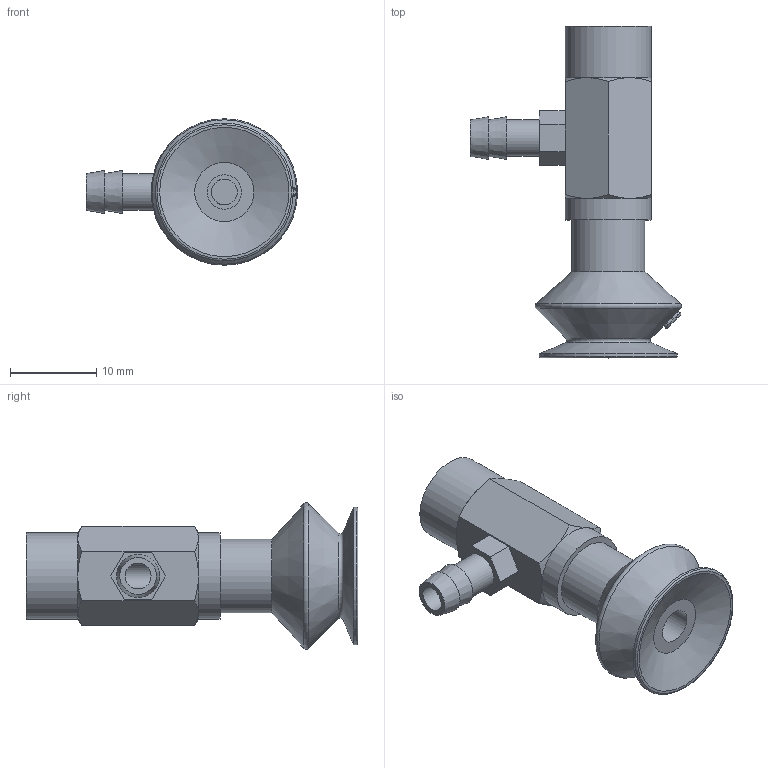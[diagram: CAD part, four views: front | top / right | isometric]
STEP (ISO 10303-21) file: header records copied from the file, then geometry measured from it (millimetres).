
FILE_DESCRIPTION(('STEP AP203'),'1');
FILE_NAME('.stp','2025-04-01T05:50:28',(' '),(' '),'Spatial InterOp 3D',' ',' ');
FILE_SCHEMA(('CONFIG_CONTROL_DESIGN'));
Length unit declared in the file: millimetre
Products named in the file (5): BBPBYK-15A-※; BPBYK-15A; BPBG-15A-※; __27; BPBG-15A
Assembly tree (4 placements, depth 3):
  BBPBYK-15A-※
    BPBYK-15A
    BPBG-15A-※
      __27
      BPBG-15A
Bounding box: 24.5 x 38.5 x 17 mm (x, y, z)
Volume: 3239.3 mm3; surface area: 2821.8 mm2
Topology: 3 solids, 3 shells, 88 faces, 191 edges, 119 vertices
Faces by surface type: plane 29, cone 25, cylinder 15, torus 11, bspline 8
Full cylindrical faces by diameter (mm): 3 x2, 3.242 x1, 4 x3, 4.26 x1, 5 x1, 6 x2, 8.5 x1, 10 x2, 16 x1
Entity records: 3659 total; most frequent: CARTESIAN_POINT 1790, DIRECTION 329, ORIENTED_EDGE 280, AXIS2_PLACEMENT_3D 148, EDGE_CURVE 140, EDGE_LOOP 136, FACE_OUTER_BOUND 112, VERTEX_POINT 105
